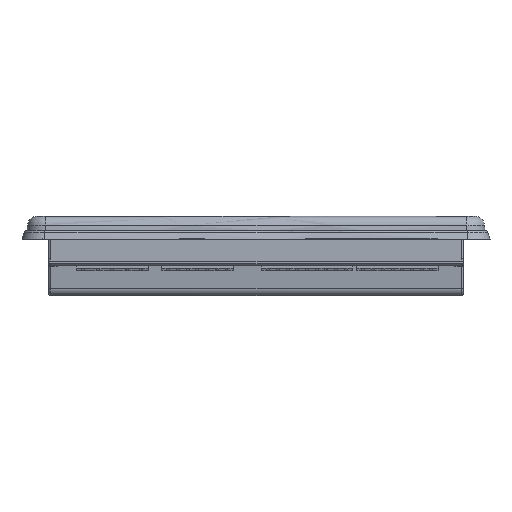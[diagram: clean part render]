
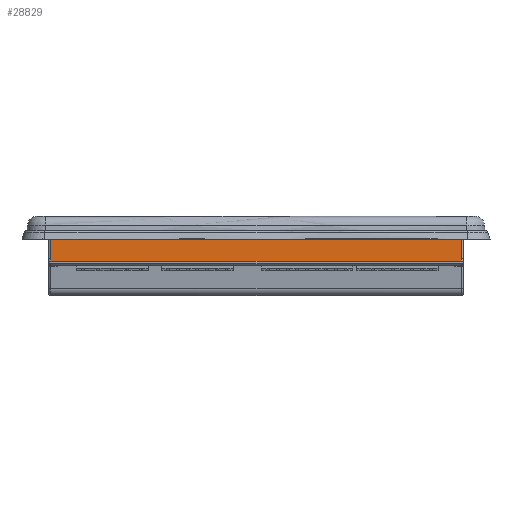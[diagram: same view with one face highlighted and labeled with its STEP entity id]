
A CAD part, front view. The second image highlights one B-rep face of the part: STEP entity #28829.
In plain terms, the highlighted planar face has unit normal (0, -1, -0.009).
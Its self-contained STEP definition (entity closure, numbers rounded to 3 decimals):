
#353 = PLANE ( 'NONE',  #43569 ) ;
#492 = CARTESIAN_POINT ( 'NONE',  ( 108.5, -78.64, -13.5 ) ) ;
#879 = EDGE_CURVE ( 'NONE', #8378, #59711, #1088, .T. ) ;
#1088 = LINE ( 'NONE', #47038, #135944 ) ;
#2077 = DIRECTION ( 'NONE',  ( 1., 0., 0. ) ) ;
#3397 = EDGE_CURVE ( 'NONE', #4375, #8378, #116499, .T. ) ;
#4375 = VERTEX_POINT ( 'NONE', #115085 ) ;
#8101 = LINE ( 'NONE', #492, #33698 ) ;
#8378 = VERTEX_POINT ( 'NONE', #119413 ) ;
#13057 = CARTESIAN_POINT ( 'NONE',  ( -107.653, -78.64, -13.5 ) ) ;
#18571 = CARTESIAN_POINT ( 'NONE',  ( -107.653, -78.5, -29.5 ) ) ;
#20600 = VERTEX_POINT ( 'NONE', #13057 ) ;
#21491 = EDGE_CURVE ( 'NONE', #24749, #141087, #87264, .T. ) ;
#24749 = VERTEX_POINT ( 'NONE', #66514 ) ;
#28732 = VECTOR ( 'NONE', #2077, 1000. ) ;
#28829 = ADVANCED_FACE ( 'NONE', ( #96190 ), #353, .T. ) ;
#29405 = VECTOR ( 'NONE', #107742, 1000. ) ;
#32110 = LINE ( 'NONE', #34550, #28732 ) ;
#33698 = VECTOR ( 'NONE', #87881, 1000. ) ;
#33853 = DIRECTION ( 'NONE',  ( 0.009, 0.009, -1. ) ) ;
#34550 = CARTESIAN_POINT ( 'NONE',  ( -119.231, -78.744, -1.5 ) ) ;
#34642 = VECTOR ( 'NONE', #94947, 1000. ) ;
#36051 = ORIENTED_EDGE ( 'NONE', *, *, #60436, .F. ) ;
#43569 = AXIS2_PLACEMENT_3D ( 'NONE', #109695, #44212, #120679 ) ;
#44212 = DIRECTION ( 'NONE',  ( 0., -1., -0.009 ) ) ;
#46278 = DIRECTION ( 'NONE',  ( 0.009, -0.009, 1. ) ) ;
#47038 = CARTESIAN_POINT ( 'NONE',  ( 107.653, -78.653, -12. ) ) ;
#58236 = VECTOR ( 'NONE', #33853, 1000. ) ;
#59711 = VERTEX_POINT ( 'NONE', #64467 ) ;
#60436 = EDGE_CURVE ( 'NONE', #24749, #59711, #32110, .T. ) ;
#64467 = CARTESIAN_POINT ( 'NONE',  ( 107.744, -78.744, -1.5 ) ) ;
#66514 = CARTESIAN_POINT ( 'NONE',  ( -107.744, -78.744, -1.5 ) ) ;
#68167 = CARTESIAN_POINT ( 'NONE',  ( -107.653, -78.653, -12. ) ) ;
#87264 = LINE ( 'NONE', #110248, #58236 ) ;
#87881 = DIRECTION ( 'NONE',  ( 1., 0., 0. ) ) ;
#94947 = DIRECTION ( 'NONE',  ( 0., 0.009, -1. ) ) ;
#96190 = FACE_OUTER_BOUND ( 'NONE', #105820, .T. ) ;
#99964 = ORIENTED_EDGE ( 'NONE', *, *, #21491, .T. ) ;
#105820 = EDGE_LOOP ( 'NONE', ( #99964, #140230, #107581, #126093, #119549, #36051 ) ) ;
#107295 = CARTESIAN_POINT ( 'NONE',  ( 107.653, -78.5, -29.5 ) ) ;
#107581 = ORIENTED_EDGE ( 'NONE', *, *, #110055, .T. ) ;
#107742 = DIRECTION ( 'NONE',  ( 0., -0.009, 1. ) ) ;
#108365 = EDGE_CURVE ( 'NONE', #141087, #20600, #121823, .T. ) ;
#109695 = CARTESIAN_POINT ( 'NONE',  ( 108.5, -78.5, -29.5 ) ) ;
#110055 = EDGE_CURVE ( 'NONE', #20600, #4375, #8101, .T. ) ;
#110248 = CARTESIAN_POINT ( 'NONE',  ( -107.744, -78.744, -1.5 ) ) ;
#115085 = CARTESIAN_POINT ( 'NONE',  ( 107.653, -78.64, -13.5 ) ) ;
#116499 = LINE ( 'NONE', #107295, #29405 ) ;
#119413 = CARTESIAN_POINT ( 'NONE',  ( 107.653, -78.653, -12. ) ) ;
#119549 = ORIENTED_EDGE ( 'NONE', *, *, #879, .T. ) ;
#120679 = DIRECTION ( 'NONE',  ( 0., 0.009, -1. ) ) ;
#121823 = LINE ( 'NONE', #18571, #34642 ) ;
#126093 = ORIENTED_EDGE ( 'NONE', *, *, #3397, .T. ) ;
#135944 = VECTOR ( 'NONE', #46278, 1000. ) ;
#140230 = ORIENTED_EDGE ( 'NONE', *, *, #108365, .T. ) ;
#141087 = VERTEX_POINT ( 'NONE', #68167 ) ;
